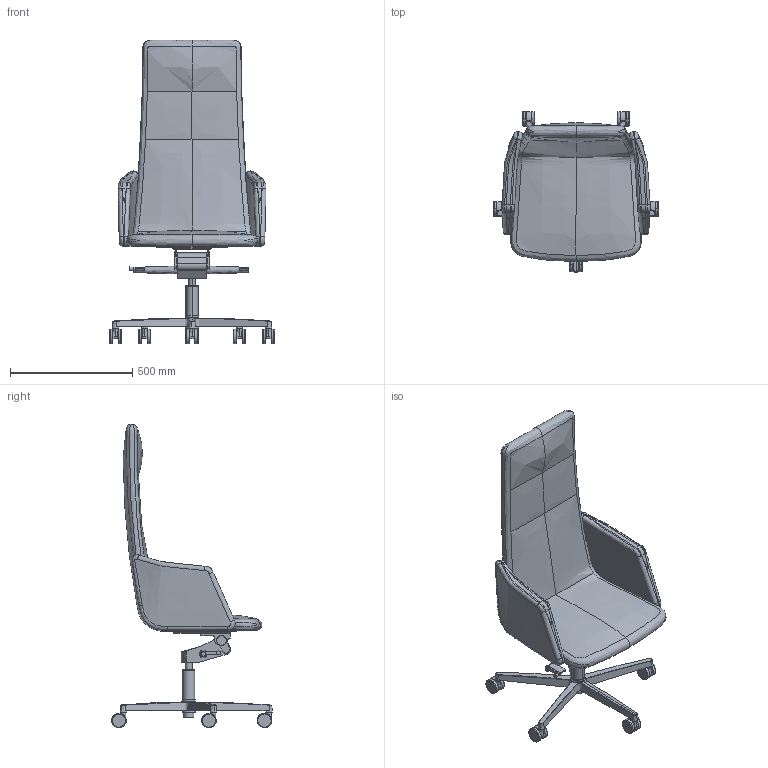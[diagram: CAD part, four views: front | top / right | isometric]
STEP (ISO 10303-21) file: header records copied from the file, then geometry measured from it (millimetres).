
FILE_DESCRIPTION(/* description */ (''),/* implementation_level */ '2;1');
FILE_NAME(/* name */ 'HARMON~2',/* time_stamp */ '2016-07-26T15:13:25+02:00',/* author */ (''),/* organization */ (''),/* preprocessor_version */ 'ST-DEVELOPER v15',/* originating_system */ '',/* authorisation */ '');
FILE_SCHEMA (('CONFIG_CONTROL_DESIGN'));
Length unit declared in the file: millimetre
Products named in the file (1): Document
Bounding box: 677.7 x 659.49 x 1244.86 mm (x, y, z)
Volume: 2104050.3 mm3; surface area: 2262465 mm2
Topology: 12 solids, 43 shells, 327 faces, 767 edges, 496 vertices
Faces by surface type: bspline 259, plane 68
Entity records: 25180 total; most frequent: CARTESIAN_POINT 20716, ORIENTED_EDGE 1401, EDGE_CURVE 764, VERTEX_POINT 490, EDGE_LOOP 331, ADVANCED_FACE 327, FACE_OUTER_BOUND 327, B_SPLINE_CURVE_WITH_KNOTS 326
